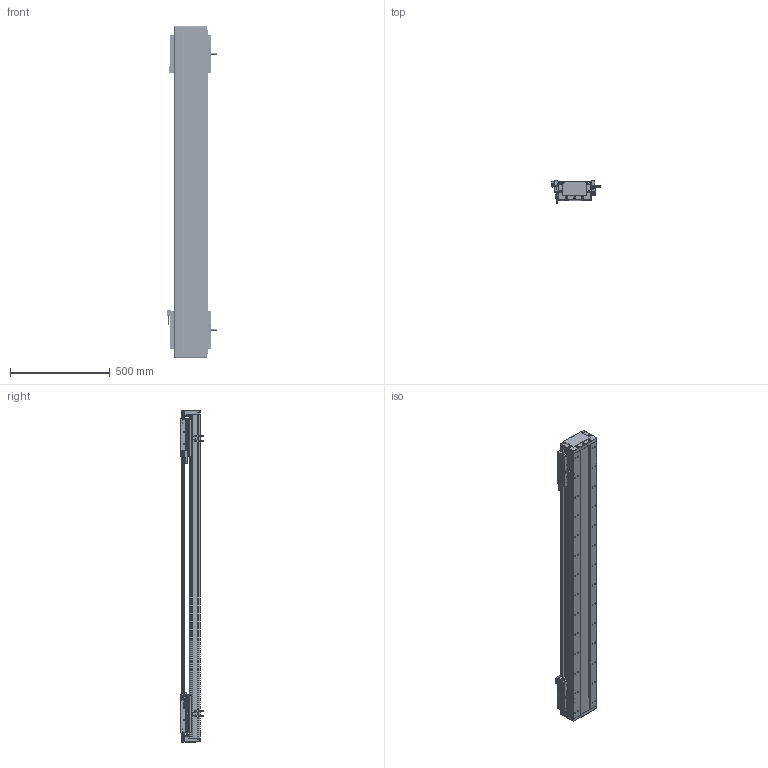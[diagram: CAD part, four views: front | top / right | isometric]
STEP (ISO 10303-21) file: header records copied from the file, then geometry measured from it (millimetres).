
FILE_DESCRIPTION (( 'STEP AP203' ), '1' );
FILE_NAME ('DA-C165-2-C2-T1160-C010-0.2 直线电机.STEP', '2023-05-11T08:20:26', ( '微软用户' ), ( '微软中国' ), 'SwSTEP 2.0', 'SolidWorks 2019', '' );
FILE_SCHEMA (( 'CONFIG_CONTROL_DESIGN' ));
Length unit declared in the file: millimetre
Products named in the file (19): 复件 DKW-HXJ-JY-00 缓冲橡胶^DA-C165-C2-T-C010-0.2-N 直线电机; IU-CU165-L-00 菁釱_L1620; 复件 XD-U-02L 磁栅尺^DA-C165-C2-T-C010-0.2-N 直线电机_T; 葩璃 PM-T45^DA-C165-C2-T-C010-0.2-N 眻盄萇儂; 葩璃 DA95-GT-T-00^IU-CU165-L 菁釱絳寢_T; DA-C165-2-C2-T1160-C010-0.2 眻盄萇儂; 复件 CKM02-W075-C1C2-TP-3.0 一体电机-C2^DA-C165-C2-T-C010-0.2-N 直线电机; 珨极趙賑雄怢啣wf-C2; 复件 DMA-010-0.2 读数头^DA-C165-C2-T-C010-0.2-N 直线电机; 复件 六角薄螺母 M3^DA-C165-C2-T-C010-0.2-N 直线电机_GB_FASTENER_NUT_STNAB M3-C; IU-CU165-L 菁釱絳寢; 复件 DA165-GYP-00 光电感应片^DA-C165-C2-T-C010-0.2-N 直线电机; 葩璃 CKM01-W075-TRL^DA-C165-C2-T-C010-0.2-N 眻盄萇儂; 复件 DA165-T-002-00 盖板^DA-C165-C2-T-C010-0.2-N 直线电机_0840-002-00; 复件 DA95-HXJ-00 缓冲橡胶^DA-C165-C2-T-C010-0.2-N 直线电机; 复件 DA165-DG-H-N-00 端盖^DA-C165-C2-T-C010-0.2-N 直线电机; 复件 66338-1000-006-00 光电感应块^DA-C165-C2-T-C010-0.2-N 直线电机; 葩璃 PM-Y45^DA-C165-C2-T-C010-0.2-N 眻盄萇儂; 复件 DA126-GYP-ZJ-00 中间光电感应片^DA-C165-C2-T-C010-0.2-N 直线电机
Assembly tree (38 placements, depth 3):
  DA-C165-2-C2-T1160-C010-0.2 眻盄萇儂
    IU-CU165-L 菁釱絳寢
      IU-CU165-L-00 菁釱_L1620
      葩璃 DA95-GT-T-00^IU-CU165-L 菁釱絳寢_T  x4
    复件 DA165-DG-H-N-00 端盖^DA-C165-C2-T-C010-0.2-N 直线电机  x2
    复件 DA95-HXJ-00 缓冲橡胶^DA-C165-C2-T-C010-0.2-N 直线电机  x4
    复件 DA165-T-002-00 盖板^DA-C165-C2-T-C010-0.2-N 直线电机_0840-002-00
    复件 XD-U-02L 磁栅尺^DA-C165-C2-T-C010-0.2-N 直线电机_T
    葩璃 PM-T45^DA-C165-C2-T-C010-0.2-N 眻盄萇儂  x4
    葩璃 CKM01-W075-TRL^DA-C165-C2-T-C010-0.2-N 眻盄萇儂
    复件 CKM02-W075-C1C2-TP-3.0 一体电机-C2^DA-C165-C2-T-C010-0.2-N 直线电机  x2
    复件 DMA-010-0.2 读数头^DA-C165-C2-T-C010-0.2-N 直线电机  x2
    复件 DA165-GYP-00 光电感应片^DA-C165-C2-T-C010-0.2-N 直线电机  x2
    复件 66338-1000-006-00 光电感应块^DA-C165-C2-T-C010-0.2-N 直线电机
    葩璃 PM-Y45^DA-C165-C2-T-C010-0.2-N 眻盄萇儂
    复件 DA126-GYP-ZJ-00 中间光电感应片^DA-C165-C2-T-C010-0.2-N 直线电机
    复件 DKW-HXJ-JY-00 缓冲橡胶^DA-C165-C2-T-C010-0.2-N 直线电机  x2
    复件 六角薄螺母 M3^DA-C165-C2-T-C010-0.2-N 直线电机_GB_FASTENER_NUT_STNAB M3-C  x6
    珨极趙賑雄怢啣wf-C2  x2
Bounding box: 247.2 x 111.45 x 1660 mm (x, y, z)
Volume: 12633485.3 mm3; surface area: 3423348.1 mm2
Topology: 115 solids, 115 shells, 5152 faces, 14051 edges, 8792 vertices
Faces by surface type: cylinder 2590, plane 1786, cone 680, torus 88, sphere 8
Entity records: 112892 total; most frequent: CARTESIAN_POINT 27958, ORIENTED_EDGE 17348, DIRECTION 17217, EDGE_CURVE 8674, AXIS2_PLACEMENT_3D 6454, VERTEX_POINT 5629, VECTOR 4309, LINE 4309
